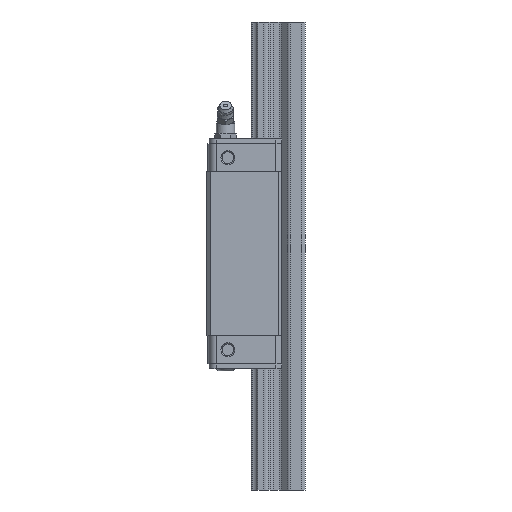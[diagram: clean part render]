
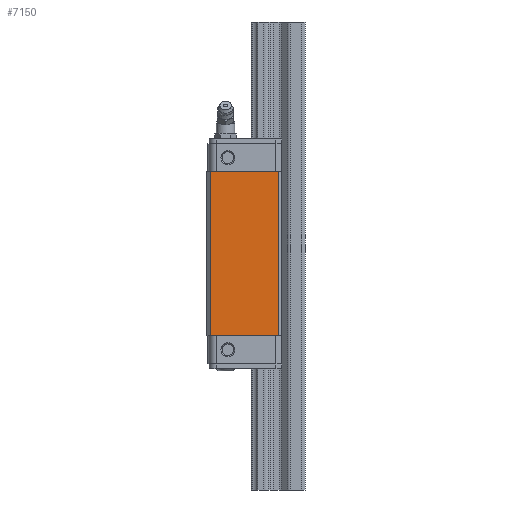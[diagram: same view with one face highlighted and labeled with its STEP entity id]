
A CAD part, left-side view. The second image highlights one B-rep face of the part: STEP entity #7150.
In plain terms, the highlighted planar face has unit normal (-1, 0, 0).
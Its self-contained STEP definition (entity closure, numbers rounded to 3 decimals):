
#7150=ADVANCED_FACE('',(#8511),#7956,.T.);
#7956=PLANE('',#22084);
#8511=FACE_OUTER_BOUND('',#9344,.T.);
#9344=EDGE_LOOP('',(#13831,#13832,#13833,#13834));
#10370=LINE('',#27553,#11657);
#10463=LINE('',#28958,#11750);
#10507=LINE('',#29157,#11794);
#10524=LINE('',#29202,#11811);
#11657=VECTOR('',#23645,1.);
#11750=VECTOR('',#23818,1.);
#11794=VECTOR('',#23940,1.);
#11811=VECTOR('',#23989,1.);
#13831=ORIENTED_EDGE('',*,*,#19345,.T.);
#13832=ORIENTED_EDGE('',*,*,#19498,.T.);
#13833=ORIENTED_EDGE('',*,*,#19562,.F.);
#13834=ORIENTED_EDGE('',*,*,#19585,.F.);
#17723=VERTEX_POINT('',#27552);
#17724=VERTEX_POINT('',#27554);
#17849=VERTEX_POINT('',#28957);
#17890=VERTEX_POINT('',#29158);
#19345=EDGE_CURVE('',#17724,#17723,#10370,.T.);
#19498=EDGE_CURVE('',#17723,#17849,#10463,.T.);
#19562=EDGE_CURVE('',#17890,#17849,#10507,.T.);
#19585=EDGE_CURVE('',#17724,#17890,#10524,.T.);
#22084=AXIS2_PLACEMENT_3D('',#29203,#23990,#23991);
#23645=DIRECTION('',(0.,1.,0.));
#23818=DIRECTION('',(0.,0.,-1.));
#23940=DIRECTION('',(0.,1.,0.));
#23989=DIRECTION('',(0.,0.,-1.));
#23990=DIRECTION('',(-1.,0.,0.));
#23991=DIRECTION('',(0.,1.,0.));
#27552=CARTESIAN_POINT('',(-30.,17.5,1.));
#27553=CARTESIAN_POINT('',(-30.,-11.7,1.));
#27554=CARTESIAN_POINT('',(-30.,-11.7,1.));
#28957=CARTESIAN_POINT('',(-30.,17.5,-69.1));
#28958=CARTESIAN_POINT('',(-30.,17.5,1.));
#29157=CARTESIAN_POINT('',(-30.,-11.7,-69.1));
#29158=CARTESIAN_POINT('',(-30.,-11.7,-69.1));
#29202=CARTESIAN_POINT('',(-30.,-11.7,1.));
#29203=CARTESIAN_POINT('',(-30.,-11.7,1.));
